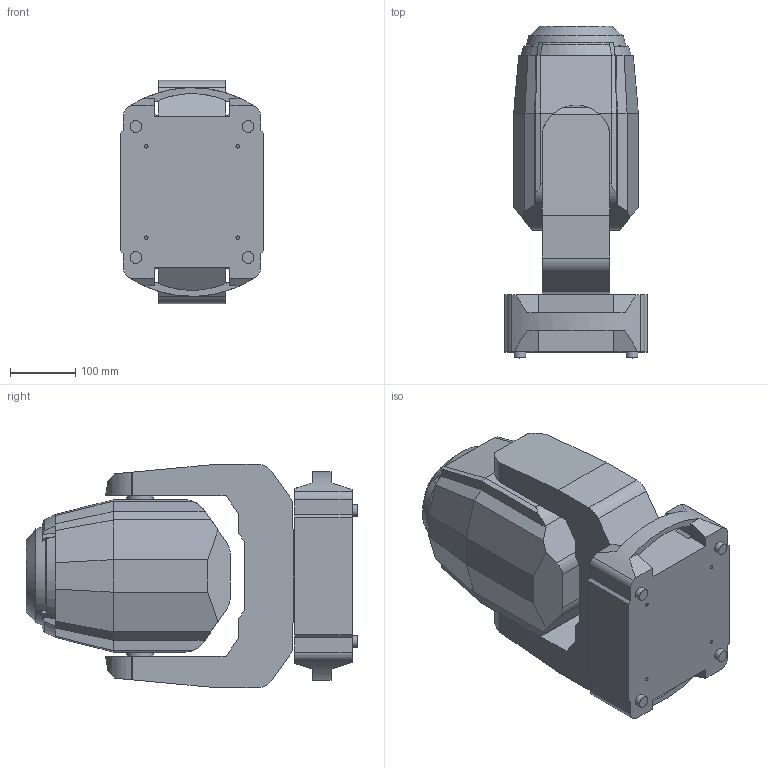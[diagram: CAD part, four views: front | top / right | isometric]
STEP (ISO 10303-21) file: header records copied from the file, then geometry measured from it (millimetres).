
FILE_DESCRIPTION(/* description */ ('Unknown'),/* implementation_level */ '2;1');
FILE_NAME(/* name */ '3D_Robin Spote',/* time_stamp */ '2020-06-11T16:34:42+02:00',/* author */ ('Ing.Rostislav HĂˇba'),/* organization */ ('ROBE lighting'),/* preprocessor_version */ 'ST-DEVELOPER v16.7',/* originating_system */ 'Solid Edge',/* authorisation */ 'Unknown');
FILE_SCHEMA (('AUTOMOTIVE_DESIGN {1 0 10303 214 3 1 1}'));
Length unit declared in the file: millimetre
Products named in the file (4): Robin Spote 3D; Zakladna; Rameno; Hlava
Assembly tree (3 placements, depth 2):
  Robin Spote 3D
    Zakladna
    Rameno
    Hlava
Bounding box: 219.33 x 509.16 x 342.66 mm (x, y, z)
Volume: 19204732.7 mm3; surface area: 761589.1 mm2
Topology: 3 solids, 3 shells, 228 faces, 611 edges, 395 vertices
Faces by surface type: plane 175, cylinder 33, cone 18, bspline 2
Full cylindrical faces by diameter (mm): 5 x4, 18 x4, 25 x2, 40 x2, 59.6 x1, 60 x1
Entity records: 7343 total; most frequent: CARTESIAN_POINT 1635, ORIENTED_EDGE 1168, DIRECTION 1128, EDGE_CURVE 584, LINE 424, VECTOR 424, VERTEX_POINT 389, AXIS2_PLACEMENT_3D 352
